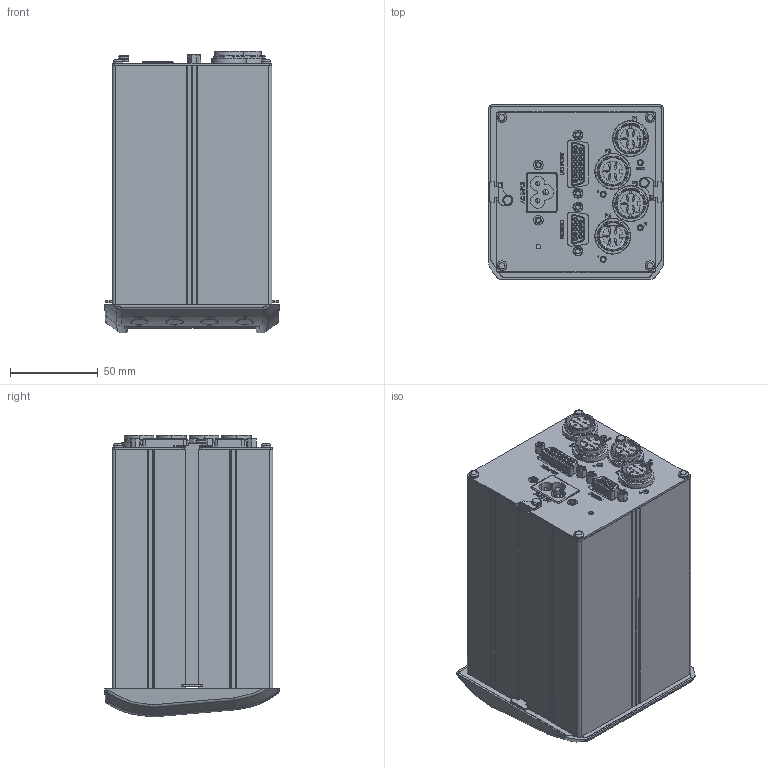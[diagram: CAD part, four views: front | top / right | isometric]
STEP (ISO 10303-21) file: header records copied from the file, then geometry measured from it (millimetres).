
FILE_DESCRIPTION (( 'STEP AP214' ), '1' );
FILE_NAME ('ML-CP_exterior.STEP', '2015-10-07T10:55:23', ( 'ysgoodman' ), ( '' ), 'SwSTEP 2.0', 'SolidWorks 2014', '' );
FILE_SCHEMA (( 'AUTOMOTIVE_DESIGN' ));
Length unit declared in the file: millimetre
Products named in the file (1): ML-CP_exterior
Bounding box: 99.48 x 99.48 x 160.5 mm (x, y, z)
Surface area: 167607.7 mm2 (no closed solid volume)
Topology: 0 solids, 94 shells, 1175 faces, 5435 edges, 4282 vertices
Faces by surface type: plane 476, cylinder 348, bspline 215, torus 88, cone 42, sphere 6
Entity records: 84891 total; most frequent: CARTESIAN_POINT 31597, ORIENTED_EDGE 7625, DIRECTION 7143, EDGE_CURVE 5427, VERTEX_POINT 4278, LINE 2877, VECTOR 2877, AXIS2_PLACEMENT_3D 2133
